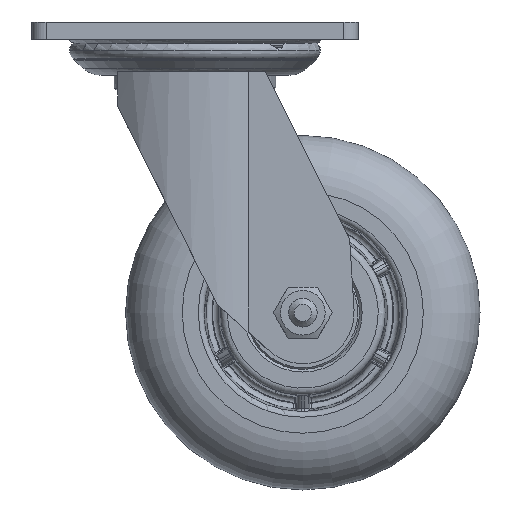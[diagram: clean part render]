
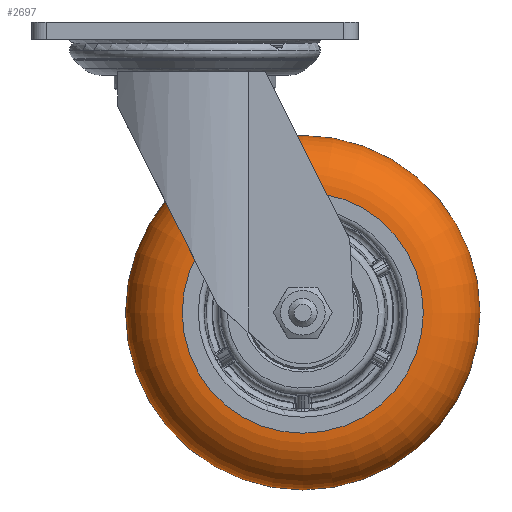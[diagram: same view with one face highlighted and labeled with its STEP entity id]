
A CAD part, front view. The second image highlights one B-rep face of the part: STEP entity #2697.
In plain terms, the highlighted toroidal (fillet/blend) face has major radius 42.5 mm and minor radius 20 mm.
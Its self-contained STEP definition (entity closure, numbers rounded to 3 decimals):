
#493=TOROIDAL_SURFACE('',#15373,42.5,20.);
#554=FACE_BOUND('',#4424,.T.);
#555=FACE_BOUND('',#4425,.T.);
#2697=ADVANCED_FACE('',(#554,#555),#493,.T.);
#4424=EDGE_LOOP('',(#7481));
#4425=EDGE_LOOP('',(#7482));
#7481=ORIENTED_EDGE('',*,*,#11998,.T.);
#7482=ORIENTED_EDGE('',*,*,#12549,.F.);
#10573=VERTEX_POINT('',#21532);
#10800=VERTEX_POINT('',#26099);
#11998=EDGE_CURVE('',#10573,#10573,#14021,.T.);
#12549=EDGE_CURVE('',#10800,#10800,#14274,.T.);
#14021=CIRCLE('',#14998,42.5);
#14274=CIRCLE('',#15370,62.5);
#14998=AXIS2_PLACEMENT_3D('',#21531,#16802,#16803);
#15370=AXIS2_PLACEMENT_3D('',#26098,#17594,#17595);
#15373=AXIS2_PLACEMENT_3D('',#26103,#17600,#17601);
#16802=DIRECTION('',(0.,1.,0.));
#16803=DIRECTION('',(1.,0.,0.));
#17594=DIRECTION('',(0.,1.,0.));
#17595=DIRECTION('',(1.,0.,0.));
#17600=DIRECTION('',(0.,1.,0.));
#17601=DIRECTION('',(-1.,0.,0.));
#21531=CARTESIAN_POINT('',(38.,-24.,-102.5));
#21532=CARTESIAN_POINT('',(80.5,-24.,-102.5));
#26098=CARTESIAN_POINT('',(38.,-4.,-102.5));
#26099=CARTESIAN_POINT('',(100.5,-4.,-102.5));
#26103=CARTESIAN_POINT('',(38.,-4.,-102.5));
